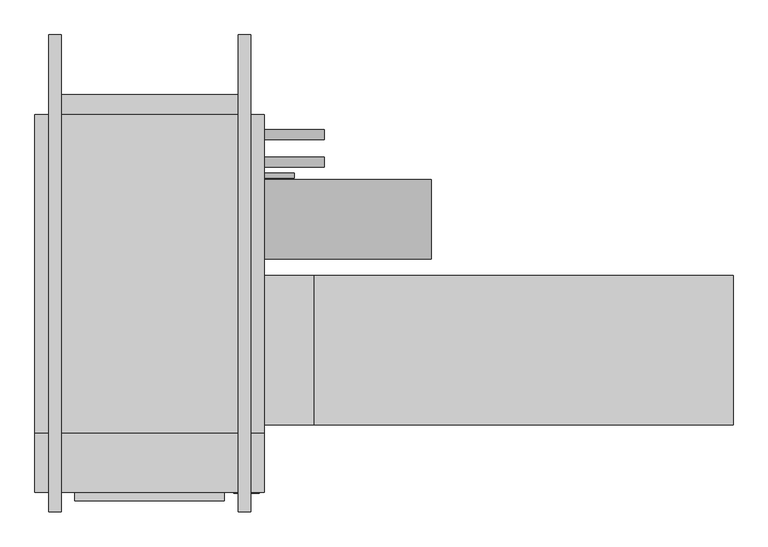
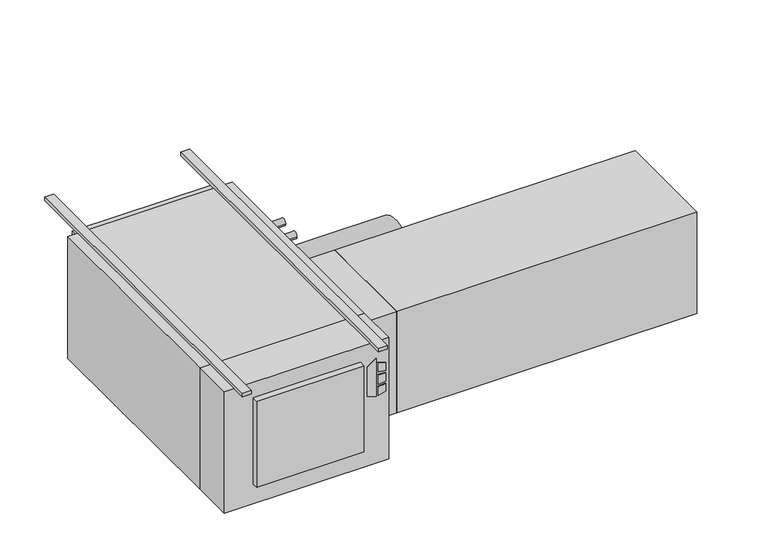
"""IFC4 building model written with IfcOpenShell, lengths in millimetres: proxy geometry."""

from ifc_helpers import new_model, si_unit, point, frame, frame_2d, origin, origin_with_axes, place, context, project, spatial, polyline, circle_curve, trimmed, segment, composite_curve, outline, extrude, source, transform, mapped, element, save


def mechanical_equipment_fcfb84d7(model_context):
    return source(origin(), model_context, "Body", "SweptSolid", [
        extrude(outline(polyline([(-193.2519297, 366.7868862), (-203.2, 398.9602728), (-61.0290756, 398.9602728), (-84.0510817, 366.7868862), (-193.2519297, 366.7868862)])), frame((0.0, -797.052, 0.0), z_axis=(0.0, 1.0, 0.0), x_axis=(0.0, 0.0, 1.0)), (0.0, 0.0, 1.0), 3.175),
        extrude(outline(polyline([(-114.2526443, 405.7186058), (-117.4550368, 431.8), (-88.2261958, 431.8), (-80.1617807, 405.7186058), (-114.2526443, 405.7186058)])), frame((0.0, -797.052, 0.0), z_axis=(0.0, 1.0, 0.0), x_axis=(0.0, 0.0, 1.0)), (0.0, 0.0, 1.0), 3.175),
        extrude(outline(polyline([(-166.1161712, 431.8), (-169.7816721, 405.7186058), (-203.2, 405.7186058), (-194.5657628, 431.8), (-166.1161712, 431.8)])), frame((0.0, -797.052, 0.0), z_axis=(0.0, 1.0, 0.0), x_axis=(0.0, 0.0, 1.0)), (0.0, 0.0, 1.0), 3.175),
        extrude(outline(polyline([(-126.8010097, 431.8), (-124.5191834, 405.7186058), (-160.4567319, 405.7186058), (-157.7154669, 431.8), (-126.8010097, 431.8)])), frame((0.0, -797.052, 0.0), z_axis=(0.0, 1.0, 0.0), x_axis=(0.0, 0.0, 1.0)), (0.0, 0.0, 1.0), 3.175),
        extrude(outline(polyline([(444.5, -793.877), (-139.7, -793.877), (-139.7, -644.525), (444.5, -644.525), (444.5, -793.877)])), frame((0.0, 0.0, -457.2), z_axis=(0.0, 0.0, 1.0), x_axis=(1.0, 0.0, 0.0)), (0.0, 0.0, 1.0), 457.2),
        extrude(outline(polyline([(342.9, -816.229), (-38.1, -816.229), (-38.1, -793.877), (342.9, -793.877), (342.9, -816.229)])), frame((0.0, 0.0, -381.0), z_axis=(0.0, 0.0, 1.0), x_axis=(1.0, 0.0, 0.0)), (0.0, 0.0, 1.0), 323.85),
        extrude(outline(polyline([(1638.3, -241.3), (1638.3, -622.3), (571.5, -622.3), (571.5, -241.3), (1638.3, -241.3)])), frame((0.0, 0.0, -431.8), z_axis=(0.0, 0.0, 1.0), x_axis=(1.0, 0.0, 0.0)), (0.0, 0.0, 1.0), 381.0),
        extrude(outline(polyline([(571.5, -241.3), (571.5, -622.3), (444.5, -622.3), (444.5, -241.3), (571.5, -241.3)])), frame((0.0, 0.0, -431.8), z_axis=(0.0, 0.0, 1.0), x_axis=(1.0, 0.0, 0.0)), (0.0, 0.0, 1.0), 381.0),
        extrude(outline(composite_curve([segment(trimmed(circle_curve(frame_2d((117.475, -171.45)), 12.7), [point((130.175, -171.45))], [point((104.775, -171.45))], False, "CARTESIAN"), True, "CONTINUOUS"), segment(trimmed(circle_curve(frame_2d((117.475, -171.45)), 12.7), [point((104.775, -171.45))], [point((130.175, -171.45))], False, "CARTESIAN"), True, "CONTINUOUS")], self_intersect=False)), frame((444.5, 0.0, 0.0), z_axis=(1.0, 0.0, 0.0), x_axis=(0.0, 1.0, 0.0)), (0.0, 0.0, 1.0), 152.4),
        extrude(outline(composite_curve([segment(trimmed(circle_curve(frame_2d((47.625, -177.8)), 12.7), [point((60.325, -177.8))], [point((34.925, -177.8))], False, "CARTESIAN"), True, "CONTINUOUS"), segment(trimmed(circle_curve(frame_2d((47.625, -177.8)), 12.7), [point((34.925, -177.8))], [point((60.325, -177.8))], False, "CARTESIAN"), True, "CONTINUOUS")], self_intersect=False)), frame((444.5, 0.0, 0.0), z_axis=(1.0, 0.0, 0.0), x_axis=(0.0, 1.0, 0.0)), (0.0, 0.0, 1.0), 152.4),
        extrude(outline(composite_curve([segment(trimmed(circle_curve(frame_2d((-98.4896516, -228.6360165)), 101.6), [point((3.1103484, -228.6360165))], [point((-200.0896516, -228.6360165))], False, "CARTESIAN"), True, "CONTINUOUS"), segment(trimmed(circle_curve(frame_2d((-98.4896516, -228.6360165)), 101.6), [point((-200.0896516, -228.6360165))], [point((3.1103484, -228.6360165))], False, "CARTESIAN"), True, "CONTINUOUS")], self_intersect=False)), frame((444.5, 0.0, 0.0), z_axis=(1.0, 0.0, 0.0), x_axis=(0.0, 1.0, 0.0)), (0.0, 0.0, 1.0), 425.45),
        extrude(outline(composite_curve([segment(trimmed(circle_curve(frame_2d((12.7, -409.575)), 6.35), [point((19.05, -409.575))], [point((6.35, -409.575))], False, "CARTESIAN"), True, "CONTINUOUS"), segment(trimmed(circle_curve(frame_2d((12.7, -409.575)), 6.35), [point((6.35, -409.575))], [point((19.05, -409.575))], False, "CARTESIAN"), True, "CONTINUOUS")], self_intersect=False)), frame((444.5, 0.0, 0.0), z_axis=(1.0, 0.0, 0.0), x_axis=(0.0, 1.0, 0.0)), (0.0, 0.0, 1.0), 76.2),
        extrude(outline(polyline([(444.5, 168.275), (444.5, -644.525), (-139.7, -644.525), (-139.7, 168.275), (444.5, 168.275)])), frame((0.0, 0.0, -457.2), z_axis=(0.0, 0.0, 1.0), x_axis=(1.0, 0.0, 0.0)), (0.0, 0.0, 1.0), 457.2),
        extrude(outline(polyline([(-95.25, 219.075), (400.05, 219.075), (400.05, 168.275), (-95.25, 168.275), (-95.25, 219.075)])), frame((0.0, 0.0, -381.0), z_axis=(0.0, 0.0, 1.0), x_axis=(1.0, 0.0, 0.0)), (0.0, 0.0, 1.0), 355.6),
        extrude(outline(polyline([(-73.025, 371.475), (-73.025, -844.677), (-104.775, -844.677), (-104.775, 371.475), (-73.025, 371.475)])), origin_with_axes(), (0.0, 0.0, 1.0), 12.7),
        extrude(outline(polyline([(409.575, 371.475), (409.575, -844.677), (377.825, -844.677), (377.825, 371.475), (409.575, 371.475)])), origin_with_axes(), (0.0, 0.0, 1.0), 12.7),
    ])


if __name__ == "__main__":
    model = new_model("IFC4")
    model_context = context("Model", 3, world=origin())
    ifc_project = project(units=[si_unit("LENGTHUNIT", "METRE", prefix="MILLI")], contexts=[model_context])
    site = spatial("IfcSite", under=ifc_project)
    building = spatial("IfcBuilding", under=site)
    placement = place(None, origin())
    mechanical_equipment_shape = mechanical_equipment_fcfb84d7(model_context)
    element("IfcBuildingElementProxy", 1, Name="High_Capacity_Horizontal_Cabinet_Fan_Coil_Unit_-_HTY_-_IEC_-_2 Pipe, Elec Heat_RH Side_2022 : Size 06 - 277v/60Hz/1Ph - 8/0 Coil 4.0kW - 8\" AirIn", ObjectType="High_Capacity_Horizontal_Cabinet_Fan_Coil_Unit_-_HTY_-_IEC_-_2 Pipe, Elec Heat_RH Side_2022 : Size 06 - 277v/60Hz/1Ph - 8/0 Coil 4.0kW - 8\" AirIn", at=placement, inside=building, context=model_context, shape_type="MappedRepresentation", body=[
        mapped(mechanical_equipment_shape, transform((0.0, 0.0, 0.0), x_axis=(1.0, 0.0, 0.0), y_axis=(0.0, 1.0, 0.0), z_axis=(0.0, 0.0, 1.0))),
    ])
    save(model, "model.ifc")
